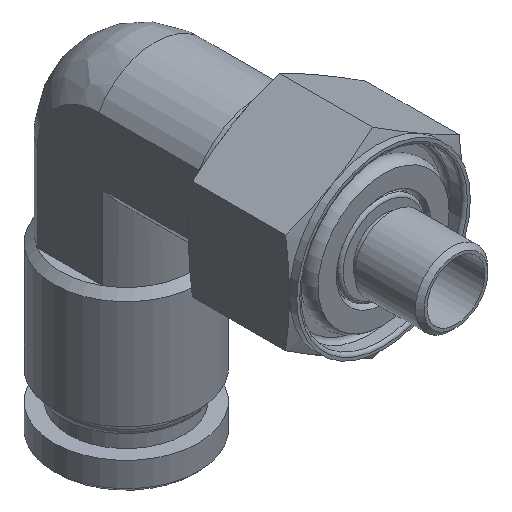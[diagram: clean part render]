
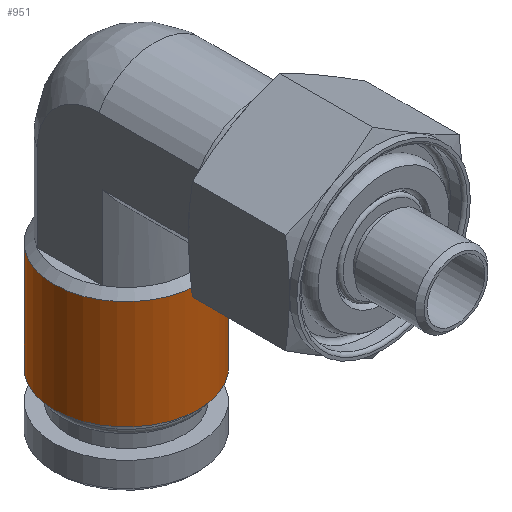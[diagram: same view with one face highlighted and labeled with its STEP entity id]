
A CAD part, isometric view. The second image highlights one B-rep face of the part: STEP entity #951.
In plain terms, the highlighted cylindrical face has radius 5 mm (diameter 10 mm), a full revolution.
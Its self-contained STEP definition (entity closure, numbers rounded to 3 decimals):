
#165=FACE_OUTER_BOUND('',#240,.T.);
#240=EDGE_LOOP('',(#820,#821,#822,#823));
#280=LINE('',#1783,#314);
#314=VECTOR('',#1430,5.);
#382=CIRCLE('',#1141,5.);
#385=CIRCLE('',#1147,5.);
#467=VERTEX_POINT('',#1770);
#469=VERTEX_POINT('',#1780);
#586=EDGE_CURVE('',#467,#467,#382,.T.);
#590=EDGE_CURVE('',#469,#469,#385,.T.);
#591=EDGE_CURVE('',#467,#469,#280,.T.);
#820=ORIENTED_EDGE('',*,*,#586,.F.);
#821=ORIENTED_EDGE('',*,*,#591,.T.);
#822=ORIENTED_EDGE('',*,*,#590,.T.);
#823=ORIENTED_EDGE('',*,*,#591,.F.);
#895=CYLINDRICAL_SURFACE('',#1148,5.);
#951=ADVANCED_FACE('',(#165),#895,.T.);
#1141=AXIS2_PLACEMENT_3D('',#1772,#1413,#1414);
#1147=AXIS2_PLACEMENT_3D('',#1781,#1426,#1427);
#1148=AXIS2_PLACEMENT_3D('',#1782,#1428,#1429);
#1413=DIRECTION('center_axis',(0.,0.,1.));
#1414=DIRECTION('ref_axis',(1.,0.,0.));
#1426=DIRECTION('center_axis',(0.,0.,1.));
#1427=DIRECTION('ref_axis',(1.,0.,0.));
#1428=DIRECTION('center_axis',(0.,0.,1.));
#1429=DIRECTION('ref_axis',(0.,-1.,0.));
#1430=DIRECTION('',(0.,0.,-1.));
#1770=CARTESIAN_POINT('',(0.,14.3,-8.5));
#1772=CARTESIAN_POINT('Origin',(0.,9.3,-8.5));
#1780=CARTESIAN_POINT('',(0.,14.3,-16.));
#1781=CARTESIAN_POINT('Origin',(0.,9.3,-16.));
#1782=CARTESIAN_POINT('Origin',(0.,9.3,-12.25));
#1783=CARTESIAN_POINT('',(0.,14.3,-12.25));
